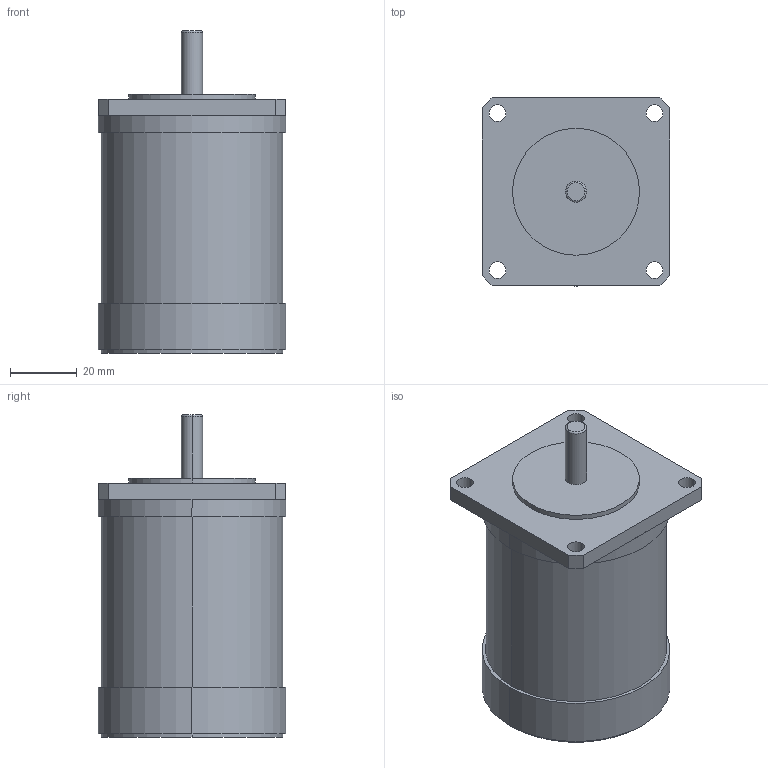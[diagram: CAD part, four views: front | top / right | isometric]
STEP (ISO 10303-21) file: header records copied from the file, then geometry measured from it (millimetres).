
FILE_DESCRIPTION (( 'STEP AP214' ), '1' );
FILE_NAME ('TS3103N3E1.STEP', '2016-09-08T08:53:55', ( 'hoho' ), ( '' ), 'SwSTEP 2.0', 'SolidWorks 2013', '' );
FILE_SCHEMA (( 'AUTOMOTIVE_DESIGN' ));
Length unit declared in the file: millimetre
Products named in the file (1): TS3103N3E1
Bounding box: 56.4 x 56.4 x 96.8 mm (x, y, z)
Volume: 186419.5 mm3; surface area: 20749.8 mm2
Topology: 1 solids, 1 shells, 41 faces, 94 edges, 60 vertices
Faces by surface type: cylinder 20, plane 19, torus 2
Entity records: 1242 total; most frequent: DIRECTION 224, CARTESIAN_POINT 196, ORIENTED_EDGE 188, EDGE_CURVE 94, AXIS2_PLACEMENT_3D 88, VERTEX_POINT 60, EDGE_LOOP 54, LINE 48
